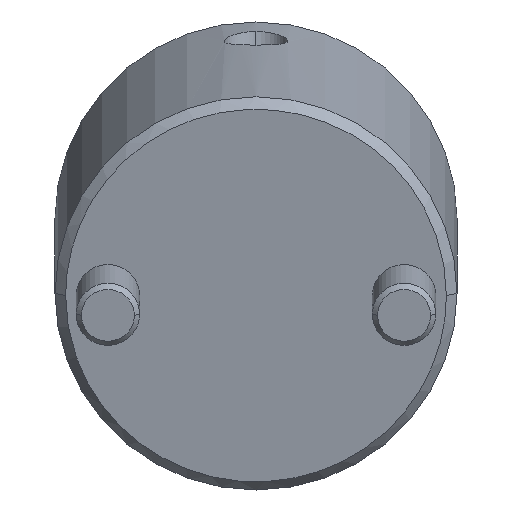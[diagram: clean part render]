
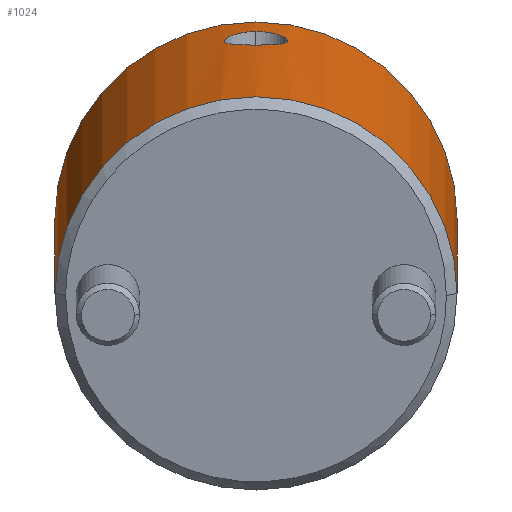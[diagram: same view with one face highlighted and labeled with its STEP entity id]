
A CAD part, front view. The second image highlights one B-rep face of the part: STEP entity #1024.
In plain terms, the highlighted cylindrical face has radius 19 mm (diameter 38 mm), a partial arc.
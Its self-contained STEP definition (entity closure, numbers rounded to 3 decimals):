
#760=CARTESIAN_POINT('Vertex',(0.,19.,1.)) ;
#763=CARTESIAN_POINT('Axis2P3D Location',(0.,0.,1.)) ;
#767=CARTESIAN_POINT('Vertex',(0.,-19.,1.)) ;
#919=CARTESIAN_POINT('Axis2P3D Location',(0.,0.,-1.8)) ;
#924=CARTESIAN_POINT('Line Origine',(0.,19.,-1.8)) ;
#928=CARTESIAN_POINT('Vertex',(0.,19.,35.)) ;
#931=CARTESIAN_POINT('Axis2P3D Location',(0.,0.,35.)) ;
#935=CARTESIAN_POINT('Vertex',(0.,-19.,35.)) ;
#938=CARTESIAN_POINT('Line Origine',(0.,-19.,-1.8)) ;
#950=CARTESIAN_POINT('Control Point',(19.,0.,30.665)) ;
#951=CARTESIAN_POINT('Control Point',(19.,0.082,30.665)) ;
#952=CARTESIAN_POINT('Control Point',(19.,0.163,30.663)) ;
#953=CARTESIAN_POINT('Control Point',(18.999,0.245,30.657)) ;
#954=CARTESIAN_POINT('Control Point',(18.995,0.489,30.63)) ;
#955=CARTESIAN_POINT('Control Point',(18.987,0.731,30.577)) ;
#956=CARTESIAN_POINT('Control Point',(18.98,0.894,30.529)) ;
#957=CARTESIAN_POINT('Control Point',(18.963,1.207,30.411)) ;
#958=CARTESIAN_POINT('Control Point',(18.942,1.499,30.251)) ;
#959=CARTESIAN_POINT('Control Point',(18.93,1.641,30.159)) ;
#960=CARTESIAN_POINT('Control Point',(18.905,1.913,29.956)) ;
#961=CARTESIAN_POINT('Control Point',(18.878,2.156,29.716)) ;
#962=CARTESIAN_POINT('Control Point',(18.864,2.27,29.587)) ;
#963=CARTESIAN_POINT('Control Point',(18.838,2.479,29.312)) ;
#964=CARTESIAN_POINT('Control Point',(18.814,2.652,29.008)) ;
#965=CARTESIAN_POINT('Control Point',(18.803,2.727,28.852)) ;
#966=CARTESIAN_POINT('Control Point',(18.784,2.856,28.531)) ;
#967=CARTESIAN_POINT('Control Point',(18.771,2.941,28.192)) ;
#968=CARTESIAN_POINT('Control Point',(18.766,2.972,28.017)) ;
#969=CARTESIAN_POINT('Control Point',(18.76,3.01,27.673)) ;
#970=CARTESIAN_POINT('Control Point',(18.762,3.,27.329)) ;
#971=CARTESIAN_POINT('Control Point',(18.764,2.983,27.158)) ;
#972=CARTESIAN_POINT('Control Point',(18.776,2.912,26.736)) ;
#973=CARTESIAN_POINT('Control Point',(18.797,2.77,26.335)) ;
#974=CARTESIAN_POINT('Control Point',(18.814,2.659,26.105)) ;
#975=CARTESIAN_POINT('Control Point',(18.856,2.348,25.599)) ;
#976=CARTESIAN_POINT('Control Point',(18.905,1.924,25.187)) ;
#977=CARTESIAN_POINT('Control Point',(18.932,1.648,24.985)) ;
#978=CARTESIAN_POINT('Control Point',(18.969,1.16,24.728)) ;
#979=CARTESIAN_POINT('Control Point',(18.991,0.626,24.586)) ;
#980=CARTESIAN_POINT('Control Point',(18.997,0.418,24.549)) ;
#981=CARTESIAN_POINT('Control Point',(19.,0.21,24.531)) ;
#982=CARTESIAN_POINT('Control Point',(19.,0.,24.531)) ;
#983=CARTESIAN_POINT('Vertex',(19.,0.,30.665)) ;
#985=CARTESIAN_POINT('Vertex',(19.,0.,24.531)) ;
#989=CARTESIAN_POINT('Control Point',(19.,0.,24.531)) ;
#990=CARTESIAN_POINT('Control Point',(19.,-0.168,24.531)) ;
#991=CARTESIAN_POINT('Control Point',(18.998,-0.336,24.543)) ;
#992=CARTESIAN_POINT('Control Point',(18.994,-0.503,24.566)) ;
#993=CARTESIAN_POINT('Control Point',(18.983,-0.835,24.637)) ;
#994=CARTESIAN_POINT('Control Point',(18.966,-1.155,24.752)) ;
#995=CARTESIAN_POINT('Control Point',(18.956,-1.308,24.82)) ;
#996=CARTESIAN_POINT('Control Point',(18.933,-1.606,24.979)) ;
#997=CARTESIAN_POINT('Control Point',(18.908,-1.879,25.178)) ;
#998=CARTESIAN_POINT('Control Point',(18.894,-2.008,25.287)) ;
#999=CARTESIAN_POINT('Control Point',(18.867,-2.249,25.522)) ;
#1000=CARTESIAN_POINT('Control Point',(18.841,-2.455,25.789)) ;
#1001=CARTESIAN_POINT('Control Point',(18.829,-2.548,25.93)) ;
#1002=CARTESIAN_POINT('Control Point',(18.8,-2.756,26.297)) ;
#1003=CARTESIAN_POINT('Control Point',(18.778,-2.898,26.697)) ;
#1004=CARTESIAN_POINT('Control Point',(18.768,-2.958,26.949)) ;
#1005=CARTESIAN_POINT('Control Point',(18.759,-3.014,27.375)) ;
#1006=CARTESIAN_POINT('Control Point',(18.762,-2.997,27.805)) ;
#1007=CARTESIAN_POINT('Control Point',(18.765,-2.977,27.979)) ;
#1008=CARTESIAN_POINT('Control Point',(18.778,-2.9,28.41)) ;
#1009=CARTESIAN_POINT('Control Point',(18.8,-2.751,28.82)) ;
#1010=CARTESIAN_POINT('Control Point',(18.817,-2.636,29.058)) ;
#1011=CARTESIAN_POINT('Control Point',(18.854,-2.361,29.503)) ;
#1012=CARTESIAN_POINT('Control Point',(18.895,-2.008,29.876)) ;
#1013=CARTESIAN_POINT('Control Point',(18.915,-1.812,30.044)) ;
#1014=CARTESIAN_POINT('Control Point',(18.955,-1.366,30.354)) ;
#1015=CARTESIAN_POINT('Control Point',(18.984,-0.86,30.555)) ;
#1016=CARTESIAN_POINT('Control Point',(18.995,-0.573,30.63)) ;
#1017=CARTESIAN_POINT('Control Point',(19.,-0.288,30.665)) ;
#1018=CARTESIAN_POINT('Control Point',(19.,0.,30.665)) ;
#764=DIRECTION('Axis2P3D Direction',(0.,0.,1.)) ;
#920=DIRECTION('Axis2P3D Direction',(0.,-0.,1.)) ;
#921=DIRECTION('Axis2P3D XDirection',(0.,-1.,0.)) ;
#925=DIRECTION('Vector Direction',(0.,0.,1.)) ;
#932=DIRECTION('Axis2P3D Direction',(0.,-0.,1.)) ;
#939=DIRECTION('Vector Direction',(0.,0.,1.)) ;
#765=AXIS2_PLACEMENT_3D('Circle Axis2P3D',#763,#764,$) ;
#922=AXIS2_PLACEMENT_3D('Cylinder Axis2P3D',#919,#920,#921) ;
#933=AXIS2_PLACEMENT_3D('Circle Axis2P3D',#931,#932,$) ;
#944=ORIENTED_EDGE('',*,*,#930,.F.) ;
#945=ORIENTED_EDGE('',*,*,#937,.T.) ;
#946=ORIENTED_EDGE('',*,*,#942,.T.) ;
#947=ORIENTED_EDGE('',*,*,#769,.F.) ;
#1021=ORIENTED_EDGE('',*,*,#987,.T.) ;
#1022=ORIENTED_EDGE('',*,*,#1019,.T.) ;
#1023=FACE_BOUND('',#1020,.T.) ;
#926=VECTOR('Line Direction',#925,1.) ;
#940=VECTOR('Line Direction',#939,1.) ;
#1024=ADVANCED_FACE('MANIFOLD_SOLID_BREP #1114',(#948,#1023),#923,.T.) ;
#949=B_SPLINE_CURVE_WITH_KNOTS('',5,(#950,#951,#952,#953,#954,#955,#956,#957,#958,#959,#960,#961,#962,#963,#964,#965,#966,#967,#968,#969,#970,#971,#972,#973,#974,#975,#976,#977,#978,#979,#980,#981,#982),.UNSPECIFIED.,.F.,.U.,(6,3,3,3,3,3,3,3,3,3,6),(0.,0.585,1.767,2.972,4.197,5.41,6.616,7.814,9.611,12.008,13.501),.UNSPECIFIED.) ;
#988=B_SPLINE_CURVE_WITH_KNOTS('',5,(#989,#990,#991,#992,#993,#994,#995,#996,#997,#998,#999,#1000,#1001,#1002,#1003,#1004,#1005,#1006,#1007,#1008,#1009,#1010,#1011,#1012,#1013,#1014,#1015,#1016,#1017,#1018),.UNSPECIFIED.,.F.,.U.,(6,3,3,3,3,3,3,3,3,6),(0.,1.206,2.407,3.614,4.817,6.61,7.813,9.635,11.452,13.504),.UNSPECIFIED.) ;
#766=CIRCLE('generated circle',#765,19.) ;
#934=CIRCLE('generated circle',#933,19.) ;
#923=CYLINDRICAL_SURFACE('generated cylinder',#922,19.) ;
#769=EDGE_CURVE('',#761,#768,#766,.F.) ;
#930=EDGE_CURVE('',#929,#761,#927,.F.) ;
#937=EDGE_CURVE('',#929,#936,#934,.F.) ;
#942=EDGE_CURVE('',#936,#768,#941,.F.) ;
#987=EDGE_CURVE('',#984,#986,#949,.T.) ;
#1019=EDGE_CURVE('',#986,#984,#988,.T.) ;
#943=EDGE_LOOP('',(#944,#945,#946,#947)) ;
#1020=EDGE_LOOP('',(#1021,#1022)) ;
#948=FACE_OUTER_BOUND('',#943,.T.) ;
#927=LINE('Line',#924,#926) ;
#941=LINE('Line',#938,#940) ;
#761=VERTEX_POINT('',#760) ;
#768=VERTEX_POINT('',#767) ;
#929=VERTEX_POINT('',#928) ;
#936=VERTEX_POINT('',#935) ;
#984=VERTEX_POINT('',#983) ;
#986=VERTEX_POINT('',#985) ;
